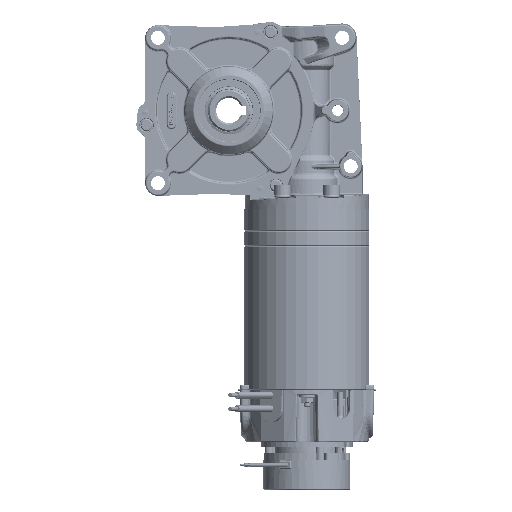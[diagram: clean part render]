
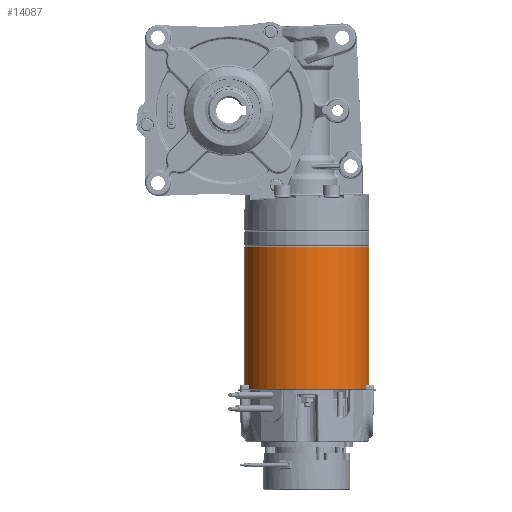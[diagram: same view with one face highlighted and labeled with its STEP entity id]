
A CAD part, left-side view. The second image highlights one B-rep face of the part: STEP entity #14087.
In plain terms, the highlighted cylindrical face has radius 37 mm (diameter 74 mm), a partial arc.
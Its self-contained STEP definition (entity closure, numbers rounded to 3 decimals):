
#3376 = DIRECTION ( 'NONE',  ( 0., 0., -1. ) ) ;
#6864 = EDGE_CURVE ( 'NONE', #114147, #210453, #245768, .T. ) ;
#14087 = ADVANCED_FACE ( 'NONE', ( #72270 ), #248070, .T. ) ;
#20719 = VECTOR ( 'NONE', #3376, 1000. ) ;
#32559 = CARTESIAN_POINT ( 'NONE',  ( -126.805, -60.285, -64.816 ) ) ;
#44166 = DIRECTION ( 'NONE',  ( 0., 0., -1. ) ) ;
#44213 = CARTESIAN_POINT ( 'NONE',  ( -133.333, -23.865, -64.816 ) ) ;
#45424 = LINE ( 'NONE', #198510, #125373 ) ;
#47667 = DIRECTION ( 'NONE',  ( 0., 0., 1. ) ) ;
#57434 = CIRCLE ( 'NONE', #237829, 37. ) ;
#72270 = FACE_OUTER_BOUND ( 'NONE', #159957, .T. ) ;
#94733 = DIRECTION ( 'NONE',  ( 0.176, -0.984, 0. ) ) ;
#99598 = CARTESIAN_POINT ( 'NONE',  ( -120.277, -96.704, -64.816 ) ) ;
#106127 = CARTESIAN_POINT ( 'NONE',  ( -120.277, -96.704, 19.184 ) ) ;
#106982 = CARTESIAN_POINT ( 'NONE',  ( -133.333, -23.865, 19.184 ) ) ;
#114147 = VERTEX_POINT ( 'NONE', #106982 ) ;
#120675 = EDGE_CURVE ( 'NONE', #211708, #187143, #45424, .T. ) ;
#121230 = AXIS2_PLACEMENT_3D ( 'NONE', #168315, #201099, #244892 ) ;
#125373 = VECTOR ( 'NONE', #44166, 1000. ) ;
#133162 = ORIENTED_EDGE ( 'NONE', *, *, #120675, .F. ) ;
#141365 = CARTESIAN_POINT ( 'NONE',  ( -133.333, -23.865, 19.684 ) ) ;
#145318 = ORIENTED_EDGE ( 'NONE', *, *, #6864, .T. ) ;
#151325 = DIRECTION ( 'NONE',  ( 0., 0., -1. ) ) ;
#159957 = EDGE_LOOP ( 'NONE', ( #162925, #145318, #207132, #133162 ) ) ;
#162925 = ORIENTED_EDGE ( 'NONE', *, *, #246451, .T. ) ;
#168315 = CARTESIAN_POINT ( 'NONE',  ( -126.805, -60.285, 19.184 ) ) ;
#184343 = DIRECTION ( 'NONE',  ( 0.176, -0.984, 0. ) ) ;
#185479 = CIRCLE ( 'NONE', #121230, 37. ) ;
#187143 = VERTEX_POINT ( 'NONE', #99598 ) ;
#194983 = AXIS2_PLACEMENT_3D ( 'NONE', #243078, #151325, #94733 ) ;
#198510 = CARTESIAN_POINT ( 'NONE',  ( -120.277, -96.704, 19.684 ) ) ;
#201099 = DIRECTION ( 'NONE',  ( 0., 0., -1. ) ) ;
#207132 = ORIENTED_EDGE ( 'NONE', *, *, #210782, .T. ) ;
#210453 = VERTEX_POINT ( 'NONE', #44213 ) ;
#210782 = EDGE_CURVE ( 'NONE', #210453, #187143, #57434, .T. ) ;
#211708 = VERTEX_POINT ( 'NONE', #106127 ) ;
#237829 = AXIS2_PLACEMENT_3D ( 'NONE', #32559, #47667, #184343 ) ;
#243078 = CARTESIAN_POINT ( 'NONE',  ( -126.805, -60.285, 19.684 ) ) ;
#244892 = DIRECTION ( 'NONE',  ( 0.176, -0.984, 0. ) ) ;
#245768 = LINE ( 'NONE', #141365, #20719 ) ;
#246451 = EDGE_CURVE ( 'NONE', #211708, #114147, #185479, .T. ) ;
#248070 = CYLINDRICAL_SURFACE ( 'NONE', #194983, 37. ) ;
